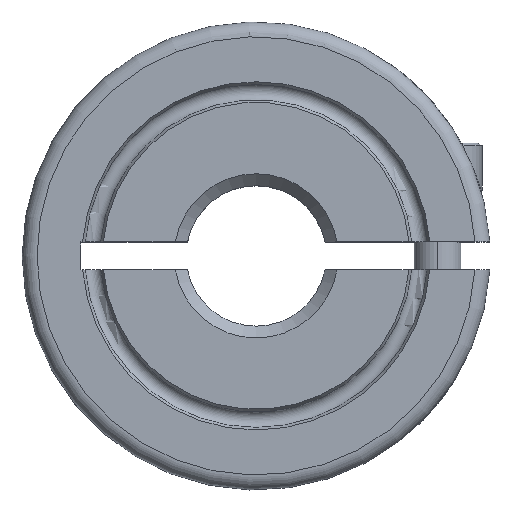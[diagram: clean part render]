
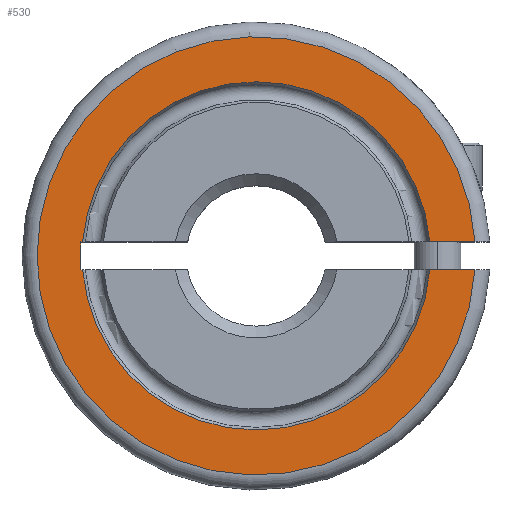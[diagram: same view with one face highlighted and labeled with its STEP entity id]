
A CAD part, top view. The second image highlights one B-rep face of the part: STEP entity #530.
In plain terms, the highlighted planar face has unit normal (0, 0, 1).
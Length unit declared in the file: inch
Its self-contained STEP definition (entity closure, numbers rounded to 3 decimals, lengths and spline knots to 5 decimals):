
#9 = VECTOR ( 'NONE', #386, 39.37008 ) ;
#13 = VERTEX_POINT ( 'NONE', #1501 ) ;
#71 = ORIENTED_EDGE ( 'NONE', *, *, #1792, .F. ) ;
#164 = DIRECTION ( 'NONE',  ( 0., 0., 1. ) ) ;
#240 = DIRECTION ( 'NONE',  ( 0., 0., 1. ) ) ;
#260 = EDGE_CURVE ( 'NONE', #550, #263, #635, .T. ) ;
#263 = VERTEX_POINT ( 'NONE', #938 ) ;
#280 = VERTEX_POINT ( 'NONE', #1520 ) ;
#295 = LINE ( 'NONE', #1453, #1572 ) ;
#345 = VECTOR ( 'NONE', #385, 39.37008 ) ;
#347 = DIRECTION ( 'NONE',  ( 1., 0., 0. ) ) ;
#352 = ORIENTED_EDGE ( 'NONE', *, *, #1065, .F. ) ;
#356 = AXIS2_PLACEMENT_3D ( 'NONE', #1111, #1254, #1697 ) ;
#361 = LINE ( 'NONE', #1335, #978 ) ;
#385 = DIRECTION ( 'NONE',  ( 1., 0., 0. ) ) ;
#386 = DIRECTION ( 'NONE',  ( -1., 0., 0. ) ) ;
#442 = CARTESIAN_POINT ( 'NONE',  ( -0.29197, -0.0235, 0.10827 ) ) ;
#452 = DIRECTION ( 'NONE',  ( 1., 0., 0. ) ) ;
#479 = AXIS2_PLACEMENT_3D ( 'NONE', #1832, #686, #1546 ) ;
#497 = ORIENTED_EDGE ( 'NONE', *, *, #1414, .F. ) ;
#509 = CARTESIAN_POINT ( 'NONE',  ( 0.36795, 0.0235, 0.10827 ) ) ;
#530 = ADVANCED_FACE ( 'NONE', ( #1479 ), #681, .T. ) ;
#550 = VERTEX_POINT ( 'NONE', #1848 ) ;
#564 = CIRCLE ( 'NONE', #931, 0.29291 ) ;
#567 = CARTESIAN_POINT ( 'NONE',  ( 0.3937, 0.0235, 0.10827 ) ) ;
#574 = CARTESIAN_POINT ( 'NONE',  ( 0.36795, -0.0235, 0.10827 ) ) ;
#590 = ORIENTED_EDGE ( 'NONE', *, *, #1150, .F. ) ;
#635 = LINE ( 'NONE', #660, #9 ) ;
#660 = CARTESIAN_POINT ( 'NONE',  ( 0.3937, 0.0235, 0.10827 ) ) ;
#681 = PLANE ( 'NONE',  #356 ) ;
#682 = ORIENTED_EDGE ( 'NONE', *, *, #739, .F. ) ;
#686 = DIRECTION ( 'NONE',  ( 0., 0., 1. ) ) ;
#711 = VECTOR ( 'NONE', #1575, 39.37008 ) ;
#728 = LINE ( 'NONE', #1093, #345 ) ;
#739 = EDGE_CURVE ( 'NONE', #263, #13, #295, .T. ) ;
#781 = ORIENTED_EDGE ( 'NONE', *, *, #959, .F. ) ;
#797 = CARTESIAN_POINT ( 'NONE',  ( 0., 0., 0.10827 ) ) ;
#931 = AXIS2_PLACEMENT_3D ( 'NONE', #1729, #164, #452 ) ;
#938 = CARTESIAN_POINT ( 'NONE',  ( -0.29528, 0.0235, 0.10827 ) ) ;
#959 = EDGE_CURVE ( 'NONE', #1485, #550, #564, .T. ) ;
#978 = VECTOR ( 'NONE', #347, 39.37008 ) ;
#1065 = EDGE_CURVE ( 'NONE', #280, #1464, #361, .T. ) ;
#1093 = CARTESIAN_POINT ( 'NONE',  ( 0.3937, -0.0235, 0.10827 ) ) ;
#1111 = CARTESIAN_POINT ( 'NONE',  ( 0., 0., 0.10827 ) ) ;
#1123 = LINE ( 'NONE', #567, #711 ) ;
#1150 = EDGE_CURVE ( 'NONE', #1517, #280, #1571, .T. ) ;
#1195 = VERTEX_POINT ( 'NONE', #509 ) ;
#1224 = AXIS2_PLACEMENT_3D ( 'NONE', #797, #240, #1389 ) ;
#1254 = DIRECTION ( 'NONE',  ( 0., 0., 1. ) ) ;
#1293 = EDGE_CURVE ( 'NONE', #1195, #1464, #1448, .T. ) ;
#1335 = CARTESIAN_POINT ( 'NONE',  ( 0.3937, -0.0235, 0.10827 ) ) ;
#1389 = DIRECTION ( 'NONE',  ( 1., 0., 0. ) ) ;
#1414 = EDGE_CURVE ( 'NONE', #1195, #1485, #1123, .T. ) ;
#1427 = ORIENTED_EDGE ( 'NONE', *, *, #1293, .T. ) ;
#1448 = CIRCLE ( 'NONE', #479, 0.3687 ) ;
#1453 = CARTESIAN_POINT ( 'NONE',  ( -0.29528, 0.0235, 0.10827 ) ) ;
#1458 = DIRECTION ( 'NONE',  ( 0., -1., 0. ) ) ;
#1461 = EDGE_LOOP ( 'NONE', ( #497, #1427, #352, #590, #71, #682, #1494, #781 ) ) ;
#1464 = VERTEX_POINT ( 'NONE', #574 ) ;
#1479 = FACE_OUTER_BOUND ( 'NONE', #1461, .T. ) ;
#1485 = VERTEX_POINT ( 'NONE', #1748 ) ;
#1494 = ORIENTED_EDGE ( 'NONE', *, *, #260, .F. ) ;
#1501 = CARTESIAN_POINT ( 'NONE',  ( -0.29528, -0.0235, 0.10827 ) ) ;
#1517 = VERTEX_POINT ( 'NONE', #442 ) ;
#1520 = CARTESIAN_POINT ( 'NONE',  ( 0.29197, -0.0235, 0.10827 ) ) ;
#1546 = DIRECTION ( 'NONE',  ( 1., 0., 0. ) ) ;
#1571 = CIRCLE ( 'NONE', #1224, 0.29291 ) ;
#1572 = VECTOR ( 'NONE', #1458, 39.37008 ) ;
#1575 = DIRECTION ( 'NONE',  ( -1., 0., 0. ) ) ;
#1697 = DIRECTION ( 'NONE',  ( 1., 0., 0. ) ) ;
#1729 = CARTESIAN_POINT ( 'NONE',  ( 0., 0., 0.10827 ) ) ;
#1748 = CARTESIAN_POINT ( 'NONE',  ( 0.29197, 0.0235, 0.10827 ) ) ;
#1792 = EDGE_CURVE ( 'NONE', #13, #1517, #728, .T. ) ;
#1832 = CARTESIAN_POINT ( 'NONE',  ( 0., 0., 0.10827 ) ) ;
#1848 = CARTESIAN_POINT ( 'NONE',  ( -0.29197, 0.0235, 0.10827 ) ) ;
